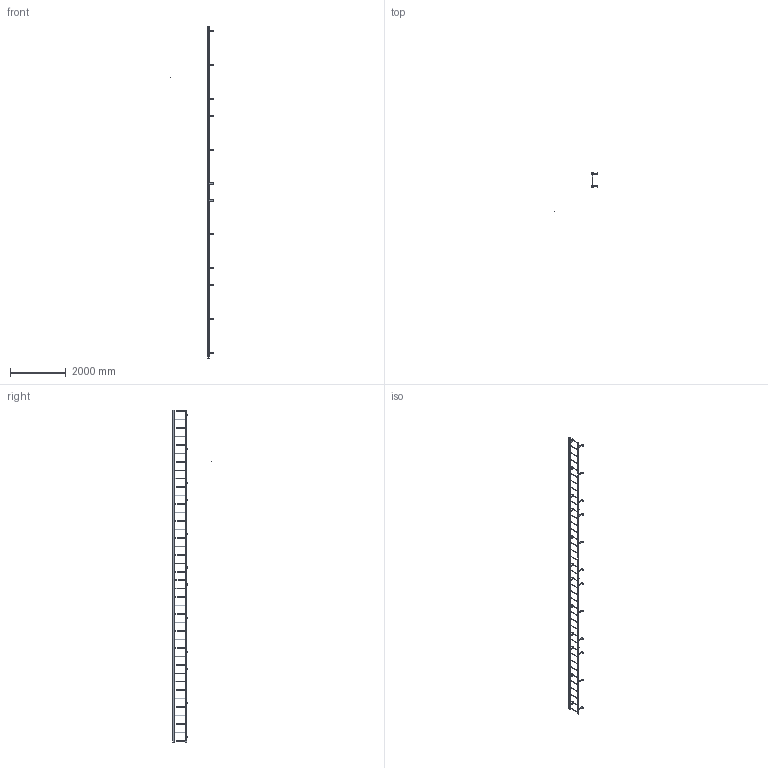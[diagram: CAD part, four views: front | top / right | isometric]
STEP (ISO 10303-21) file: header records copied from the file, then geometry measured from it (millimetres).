
FILE_DESCRIPTION(/* description */ (''),/* implementation_level */ '2;1');
FILE_NAME(/* name */ 'P:\MIKEL & KAREN\3570356 F40S SIMPLIFIED PART.stp',/* time_stamp */ '2018-07-02T16:03:23-04:00',/* author */ ('stephanie'),/* organization */ (''),/* preprocessor_version */ 'ST-DEVELOPER v16.1',/* originating_system */ 'Autodesk Inventor 2016',/* authorisation */ '');
FILE_SCHEMA (('AUTOMOTIVE_DESIGN { 1 0 10303 214 3 1 1 }'));
Length unit declared in the file: centimetre
Products named in the file (1): 3570356 F40S SIMPLIFIED PART
Bounding box: 1550.03 x 1418.82 x 11963.4 mm (x, y, z)
Volume: 21122034.8 mm3; surface area: 6347505.3 mm2
Topology: 43 solids, 43 shells, 675 faces, 1829 edges, 1216 vertices
Faces by surface type: plane 404, cylinder 271
Full cylindrical faces by diameter (mm): 0.254 x1, 14.287 x30, 19.05 x40, 22.225 x80
Entity records: 20771 total; most frequent: DIRECTION 3510, CARTESIAN_POINT 3350, ORIENTED_EDGE 3136, EDGE_CURVE 1568, AXIS2_PLACEMENT_3D 1266, VERTEX_POINT 1106, EDGE_LOOP 1046, LINE 978
